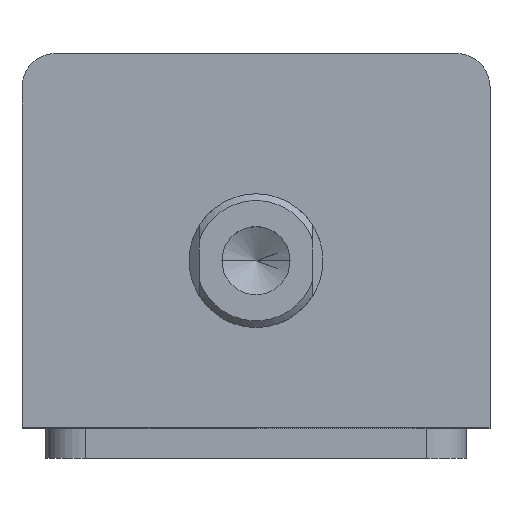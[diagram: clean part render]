
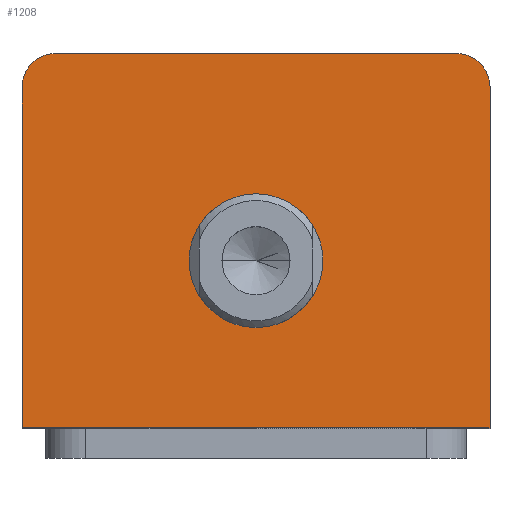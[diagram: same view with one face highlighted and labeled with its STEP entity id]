
A CAD part, top view. The second image highlights one B-rep face of the part: STEP entity #1208.
In plain terms, the highlighted planar face has unit normal (0, 0, 1).
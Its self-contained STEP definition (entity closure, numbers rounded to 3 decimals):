
#4 = EDGE_LOOP ( 'NONE', ( #367, #357 ) ) ;
#116 = ORIENTED_EDGE ( 'NONE', *, *, #2235, .T. ) ;
#173 = AXIS2_PLACEMENT_3D ( 'NONE', #1856, #562, #559 ) ;
#357 = ORIENTED_EDGE ( 'NONE', *, *, #445, .F. ) ;
#361 = ORIENTED_EDGE ( 'NONE', *, *, #2210, .T. ) ;
#362 = ORIENTED_EDGE ( 'NONE', *, *, #428, .T. ) ;
#367 = ORIENTED_EDGE ( 'NONE', *, *, #521, .F. ) ;
#411 = EDGE_CURVE ( 'NONE', #2401, #2425, #2560, .T. ) ;
#428 = EDGE_CURVE ( 'NONE', #2466, #2353, #2581, .T. ) ;
#445 = EDGE_CURVE ( 'NONE', #2363, #2494, #2609, .T. ) ;
#468 = EDGE_CURVE ( 'NONE', #2444, #2378, #2648, .T. ) ;
#509 = EDGE_CURVE ( 'NONE', #2425, #2444, #2830, .T. ) ;
#521 = EDGE_CURVE ( 'NONE', #2494, #2363, #2861, .T. ) ;
#534 = CARTESIAN_POINT ( 'NONE',  ( -10., -3., 79. ) ) ;
#541 = CARTESIAN_POINT ( 'NONE',  ( 30., 28., 79. ) ) ;
#559 = DIRECTION ( 'NONE',  ( 1., 0., 0. ) ) ;
#562 = DIRECTION ( 'NONE',  ( 0., 0., 1. ) ) ;
#634 = DIRECTION ( 'NONE',  ( -1., 0., 0. ) ) ;
#636 = CARTESIAN_POINT ( 'NONE',  ( -35., 28., 79. ) ) ;
#702 = DIRECTION ( 'NONE',  ( 0., 1., 0. ) ) ;
#703 = CARTESIAN_POINT ( 'NONE',  ( 35., 28., 79. ) ) ;
#846 = EDGE_LOOP ( 'NONE', ( #361, #362, #116, #1492, #1489, #1460 ) ) ;
#867 = LINE ( 'NONE', #636, #870 ) ;
#870 = VECTOR ( 'NONE', #634, 1000. ) ;
#1208 = ADVANCED_FACE ( 'NONE', ( #2955, #2964 ), #1732, .T. ) ;
#1288 = DIRECTION ( 'NONE',  ( 1., 0., 0. ) ) ;
#1289 = DIRECTION ( 'NONE',  ( 0., 0., 1. ) ) ;
#1290 = CARTESIAN_POINT ( 'NONE',  ( 30., 23., 79. ) ) ;
#1340 = DIRECTION ( 'NONE',  ( 1., 0., 0. ) ) ;
#1341 = DIRECTION ( 'NONE',  ( 0., 0., 1. ) ) ;
#1342 = CARTESIAN_POINT ( 'NONE',  ( -30., 23., 79. ) ) ;
#1460 = ORIENTED_EDGE ( 'NONE', *, *, #468, .T. ) ;
#1489 = ORIENTED_EDGE ( 'NONE', *, *, #509, .T. ) ;
#1492 = ORIENTED_EDGE ( 'NONE', *, *, #411, .T. ) ;
#1732 = PLANE ( 'NONE',  #173 ) ;
#1856 = CARTESIAN_POINT ( 'NONE',  ( 0., 0., 79. ) ) ;
#1922 = DIRECTION ( 'NONE',  ( 1., 0., 0. ) ) ;
#1953 = CARTESIAN_POINT ( 'NONE',  ( -35., -28., 79. ) ) ;
#1989 = DIRECTION ( 'NONE',  ( 1., 0., 0. ) ) ;
#1991 = DIRECTION ( 'NONE',  ( 0., 0., 1. ) ) ;
#1992 = CARTESIAN_POINT ( 'NONE',  ( 0., -3., 79. ) ) ;
#2040 = DIRECTION ( 'NONE',  ( 0., -1., 0. ) ) ;
#2050 = CARTESIAN_POINT ( 'NONE',  ( -35., 28., 79. ) ) ;
#2084 = DIRECTION ( 'NONE',  ( 1., 0., 0. ) ) ;
#2086 = CARTESIAN_POINT ( 'NONE',  ( 0., -3., 79. ) ) ;
#2095 = DIRECTION ( 'NONE',  ( 0., 0., 1. ) ) ;
#2140 = AXIS2_PLACEMENT_3D ( 'NONE', #1992, #1991, #1989 ) ;
#2172 = AXIS2_PLACEMENT_3D ( 'NONE', #2086, #2095, #2084 ) ;
#2182 = AXIS2_PLACEMENT_3D ( 'NONE', #1290, #1289, #1288 ) ;
#2188 = AXIS2_PLACEMENT_3D ( 'NONE', #1342, #1341, #1340 ) ;
#2210 = EDGE_CURVE ( 'NONE', #2378, #2466, #3041, .T. ) ;
#2235 = EDGE_CURVE ( 'NONE', #2353, #2401, #867, .T. ) ;
#2267 = CARTESIAN_POINT ( 'NONE',  ( 35., 23., 79. ) ) ;
#2275 = CARTESIAN_POINT ( 'NONE',  ( -35., -28., 79. ) ) ;
#2297 = CARTESIAN_POINT ( 'NONE',  ( -35., 23., 79. ) ) ;
#2353 = VERTEX_POINT ( 'NONE', #541 ) ;
#2363 = VERTEX_POINT ( 'NONE', #534 ) ;
#2378 = VERTEX_POINT ( 'NONE', #2698 ) ;
#2392 = CARTESIAN_POINT ( 'NONE',  ( -30., 28., 79. ) ) ;
#2401 = VERTEX_POINT ( 'NONE', #2392 ) ;
#2425 = VERTEX_POINT ( 'NONE', #2297 ) ;
#2444 = VERTEX_POINT ( 'NONE', #2275 ) ;
#2466 = VERTEX_POINT ( 'NONE', #2267 ) ;
#2494 = VERTEX_POINT ( 'NONE', #2688 ) ;
#2560 = CIRCLE ( 'NONE', #2188, 5. ) ;
#2581 = CIRCLE ( 'NONE', #2182, 5. ) ;
#2609 = CIRCLE ( 'NONE', #2172, 10. ) ;
#2648 = LINE ( 'NONE', #1953, #2656 ) ;
#2656 = VECTOR ( 'NONE', #1922, 1000. ) ;
#2688 = CARTESIAN_POINT ( 'NONE',  ( 10., -3., 79. ) ) ;
#2698 = CARTESIAN_POINT ( 'NONE',  ( 35., -28., 79. ) ) ;
#2830 = LINE ( 'NONE', #2050, #2841 ) ;
#2841 = VECTOR ( 'NONE', #2040, 1000. ) ;
#2861 = CIRCLE ( 'NONE', #2140, 10. ) ;
#2955 = FACE_BOUND ( 'NONE', #4, .T. ) ;
#2964 = FACE_OUTER_BOUND ( 'NONE', #846, .T. ) ;
#3041 = LINE ( 'NONE', #703, #3044 ) ;
#3044 = VECTOR ( 'NONE', #702, 1000. ) ;
